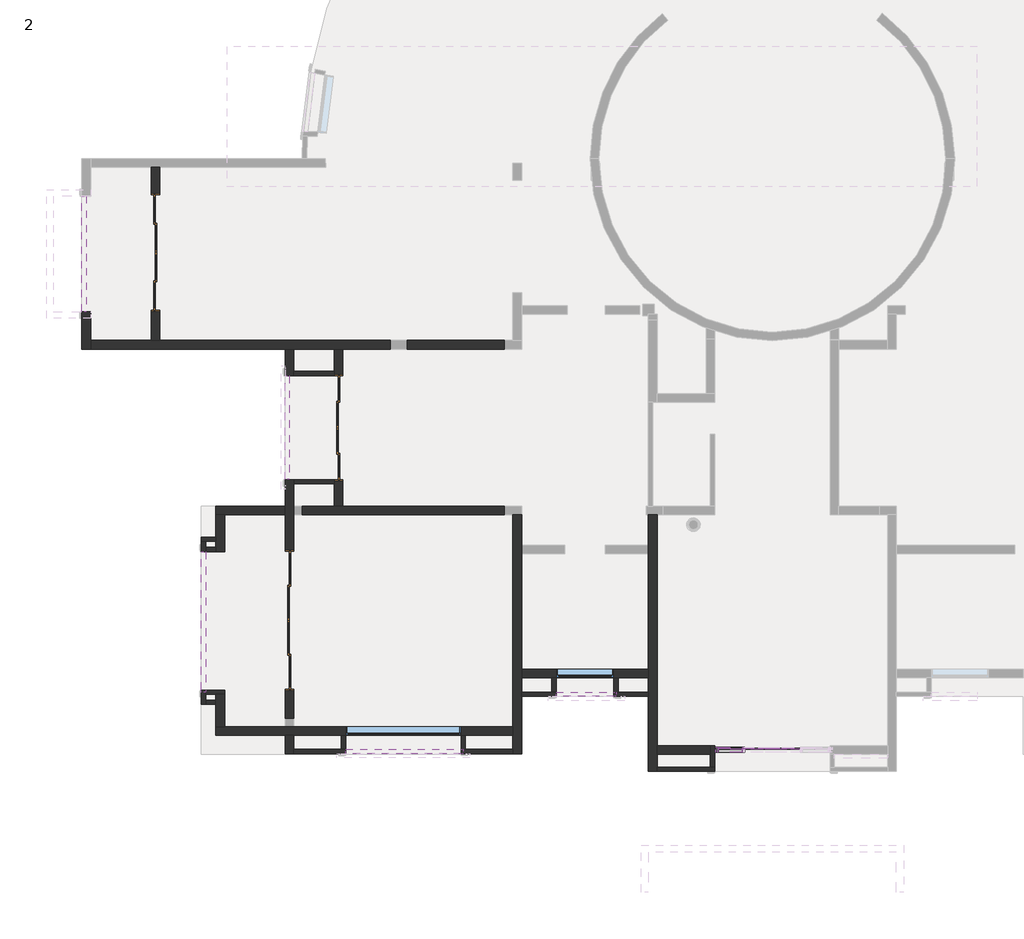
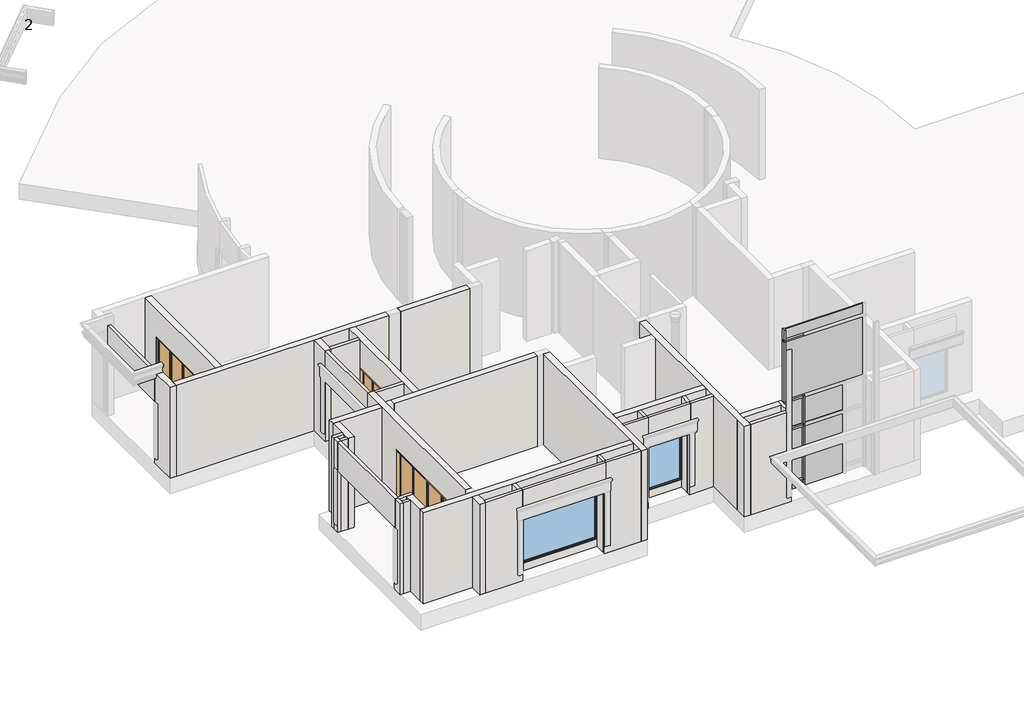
# One storey, part 1 of 10: 40 walls, 14 members, 9 plates, 3 doors, 2 windows.
"""IFC4 building model written with IfcOpenShell, lengths in millimetres."""

from ifc_helpers import new_model, si_unit, frame, origin, origin_with_axes, place, context, project, spatial, polyline, outline, extrude, faceted_brep, transform, mapped, element, save
from components import aus_sliding_door_4_panel_type_1_5477eb1e, aus_sliding_door_4_panel_type_2_6f79207a, aus_sliding_door_4_panel_type_3_7ec97240, rectangular_mullion_64mm_x127mm_rectangular_2_d7e914e6, rectangular_mullion_64mm_x127mm_rectangular_2_75d1e245, rectangular_mullion_64mm_x127mm_rectangular_2_06be906d, rectangular_mullion_64mm_x127mm_rectangular_2_866a01fa, rectangular_mullion_64mm_x127mm_rectangular_2_7f28f393, rectangular_mullion_64mm_x127mm_rectangular_2_7cbddb58, rectangular_mullion_64mm_x127mm_rectangular_2_1ad5418d, rectangular_mullion_64mm_x127mm_rectangular_2_3374d9b6, rectangular_mullion_64mm_x127mm_rectangular_2_273a15f2, rectangular_mullion_64mm_x127mm_rectangular_2_67d1cd44, rectangular_mullion_64mm_x127mm_rectangular_2_993caacf, rectangular_mullion_64mm_x127mm_rectangular_2_3c3dc66a, system_panel_glazed_24e33e6b, system_panel_glazed_a08e44d8, system_panel_glazed_6ae58218, system_panel_glazed_944de8d7, system_panel_glazed_508074fb, system_panel_glazed_55d0f924, system_panel_glazed_cddbe8b8, system_panel_glazed_61270000, system_panel_glazed_4acdfc2d, fixed_w1_e8647365, fixed_w2_d0e34ccd

model = new_model("IFC4")

# Units and contexts
model_context = context("Model", 3, world=origin())
ifc_project = project(units=[si_unit("LENGTHUNIT", "METRE", prefix="MILLI")], contexts=[model_context])

# Site, building, storey
site = spatial("IfcSite", under=ifc_project)
building = spatial("IfcBuilding", under=site)
storey = spatial("IfcBuildingStorey", under=building, Name="2", Elevation=0.0)

# Doors
placement = place(None, origin())
aus_sliding_door_4_panel_type_1_shape = aus_sliding_door_4_panel_type_1_5477eb1e(model_context)
element("IfcDoor", 1, ObjectType="AUS_Sliding Door 4 Panel : Type 1", at=placement, inside=storey, context=model_context, shape_type="MappedRepresentation", body=[
    mapped(aus_sliding_door_4_panel_type_1_shape, transform((-19856.6950906, -6658.0116955, 0.0), x_axis=(0.0, 1.0, 0.0), y_axis=(-1.0, 0.0, 0.0), z_axis=(0.0, 0.0, 1.0))),
])
aus_sliding_door_4_panel_type_2_shape = aus_sliding_door_4_panel_type_2_6f79207a(model_context)
element("IfcDoor", 2, ObjectType="AUS_Sliding Door 4 Panel : Type 2", at=placement, inside=storey, context=model_context, shape_type="MappedRepresentation", body=[
    mapped(aus_sliding_door_4_panel_type_2_shape, transform((-21152.0950906, -11748.4773323, 0.0), x_axis=(0.0, 1.0, 0.0), y_axis=(-1.0, 0.0, 0.0), z_axis=(0.0, 0.0, 1.0))),
])
aus_sliding_door_4_panel_type_3_shape = aus_sliding_door_4_panel_type_3_7ec97240(model_context)
element("IfcDoor", 3, ObjectType="AUS_Sliding Door 4 Panel : Type 3", at=placement, inside=storey, context=model_context, shape_type="MappedRepresentation", body=[
    mapped(aus_sliding_door_4_panel_type_3_shape, transform((-24695.3950906, -1857.8613299, 0.0), x_axis=(0.0, -1.0, 0.0), y_axis=(1.0, 0.0, 0.0), z_axis=(0.0, 0.0, 1.0))),
])

# Members
rectangular_mullion_64mm_x127mm_rectangular_2_shape = rectangular_mullion_64mm_x127mm_rectangular_2_d7e914e6(model_context)
element("IfcMember", 4, ObjectType="Rectangular Mullion : 64mm x127mm rectangular 2", at=placement, inside=storey, context=model_context, shape_type="MappedRepresentation", body=[
    mapped(rectangular_mullion_64mm_x127mm_rectangular_2_shape, transform((-9182.494385, -15088.1193311, 3581.4), x_axis=(0.0, 0.0, 1.0), y_axis=(0.0, -1.0, 0.0), z_axis=(1.0, 0.0, 0.0))),
])
element("IfcMember", 5, ObjectType="Rectangular Mullion : 64mm x127mm rectangular 2", at=placement, inside=storey, context=model_context, shape_type="MappedRepresentation", body=[
    mapped(rectangular_mullion_64mm_x127mm_rectangular_2_shape, transform((-9182.494385, -15088.1193311, 2438.4), x_axis=(0.0, 0.0, 1.0), y_axis=(0.0, -1.0, 0.0), z_axis=(1.0, 0.0, 0.0))),
])
element("IfcMember", 6, ObjectType="Rectangular Mullion : 64mm x127mm rectangular 2", at=placement, inside=storey, context=model_context, shape_type="MappedRepresentation", body=[
    mapped(rectangular_mullion_64mm_x127mm_rectangular_2_shape, transform((-9182.494385, -15088.1193311, 304.8), x_axis=(0.0, 0.0, 1.0), y_axis=(0.0, -1.0, 0.0), z_axis=(1.0, 0.0, 0.0))),
])
rectangular_mullion_64mm_x127mm_rectangular_2_2_shape = rectangular_mullion_64mm_x127mm_rectangular_2_75d1e245(model_context)
element("IfcMember", 7, ObjectType="Rectangular Mullion : 64mm x127mm rectangular 2", at=placement, inside=storey, context=model_context, shape_type="MappedRepresentation", body=[
    mapped(rectangular_mullion_64mm_x127mm_rectangular_2_2_shape, transform((-9150.744385, -15088.1193311, 0.0), x_axis=(1.0, 0.0, 0.0), y_axis=(0.0, -1.0, 0.0), z_axis=(0.0, 0.0, -1.0))),
])
rectangular_mullion_64mm_x127mm_rectangular_2_3_shape = rectangular_mullion_64mm_x127mm_rectangular_2_06be906d(model_context)
element("IfcMember", 8, ObjectType="Rectangular Mullion : 64mm x127mm rectangular 2", at=placement, inside=storey, context=model_context, shape_type="MappedRepresentation", body=[
    mapped(rectangular_mullion_64mm_x127mm_rectangular_2_3_shape, transform((-9150.744385, -15088.1193311, 2438.4), x_axis=(1.0, 0.0, 0.0), y_axis=(0.0, -1.0, 0.0), z_axis=(0.0, 0.0, -1.0))),
])
rectangular_mullion_64mm_x127mm_rectangular_2_4_shape = rectangular_mullion_64mm_x127mm_rectangular_2_866a01fa(model_context)
element("IfcMember", 9, ObjectType="Rectangular Mullion : 64mm x127mm rectangular 2", at=placement, inside=storey, context=model_context, shape_type="MappedRepresentation", body=[
    mapped(rectangular_mullion_64mm_x127mm_rectangular_2_4_shape, transform((-9150.744385, -15088.1193311, 2489.2), x_axis=(1.0, 0.0, 0.0), y_axis=(0.0, -1.0, 0.0), z_axis=(0.0, 0.0, -1.0))),
])
rectangular_mullion_64mm_x127mm_rectangular_2_5_shape = rectangular_mullion_64mm_x127mm_rectangular_2_7f28f393(model_context)
element("IfcMember", 10, ObjectType="Rectangular Mullion : 64mm x127mm rectangular 2", at=placement, inside=storey, context=model_context, shape_type="MappedRepresentation", body=[
    mapped(rectangular_mullion_64mm_x127mm_rectangular_2_5_shape, transform((-9150.744385, -15088.1193311, 5993.6093009), x_axis=(0.0, 0.0, 1.0), y_axis=(0.0, -1.0, 0.0), z_axis=(1.0, 0.0, 0.0))),
])
rectangular_mullion_64mm_x127mm_rectangular_2_6_shape = rectangular_mullion_64mm_x127mm_rectangular_2_7cbddb58(model_context)
element("IfcMember", 11, ObjectType="Rectangular Mullion : 64mm x127mm rectangular 2", at=placement, inside=storey, context=model_context, shape_type="MappedRepresentation", body=[
    mapped(rectangular_mullion_64mm_x127mm_rectangular_2_6_shape, transform((-9150.744385, -15088.1193311, 304.8), x_axis=(1.0, 0.0, 0.0), y_axis=(0.0, -1.0, 0.0), z_axis=(0.0, 0.0, -1.0))),
])
rectangular_mullion_64mm_x127mm_rectangular_2_7_shape = rectangular_mullion_64mm_x127mm_rectangular_2_1ad5418d(model_context)
element("IfcMember", 12, ObjectType="Rectangular Mullion : 64mm x127mm rectangular 2", at=placement, inside=storey, context=model_context, shape_type="MappedRepresentation", body=[
    mapped(rectangular_mullion_64mm_x127mm_rectangular_2_7_shape, transform((-9884.169385, -15088.1193311, 6425.4093009), x_axis=(-1.0, 0.0, 0.0), y_axis=(0.0, -1.0, 0.0), z_axis=(0.0, 0.0, 1.0))),
])
rectangular_mullion_64mm_x127mm_rectangular_2_8_shape = rectangular_mullion_64mm_x127mm_rectangular_2_3374d9b6(model_context)
element("IfcMember", 13, ObjectType="Rectangular Mullion : 64mm x127mm rectangular 2", at=placement, inside=storey, context=model_context, shape_type="MappedRepresentation", body=[
    mapped(rectangular_mullion_64mm_x127mm_rectangular_2_8_shape, transform((-9884.169385, -15088.1193311, 2438.4), x_axis=(-1.0, 0.0, 0.0), y_axis=(0.0, -1.0, 0.0), z_axis=(0.0, 0.0, 1.0))),
])
rectangular_mullion_64mm_x127mm_rectangular_2_9_shape = rectangular_mullion_64mm_x127mm_rectangular_2_273a15f2(model_context)
element("IfcMember", 14, ObjectType="Rectangular Mullion : 64mm x127mm rectangular 2", at=placement, inside=storey, context=model_context, shape_type="MappedRepresentation", body=[
    mapped(rectangular_mullion_64mm_x127mm_rectangular_2_9_shape, transform((-9884.169385, -15088.1193311, 3581.4), x_axis=(-1.0, 0.0, 0.0), y_axis=(0.0, -1.0, 0.0), z_axis=(0.0, 0.0, 1.0))),
])
rectangular_mullion_64mm_x127mm_rectangular_2_10_shape = rectangular_mullion_64mm_x127mm_rectangular_2_67d1cd44(model_context)
element("IfcMember", 15, ObjectType="Rectangular Mullion : 64mm x127mm rectangular 2", at=placement, inside=storey, context=model_context, shape_type="MappedRepresentation", body=[
    mapped(rectangular_mullion_64mm_x127mm_rectangular_2_10_shape, transform((-9884.169385, -15088.1193311, 2489.2), x_axis=(-1.0, 0.0, 0.0), y_axis=(0.0, -1.0, 0.0), z_axis=(0.0, 0.0, 1.0))),
])
rectangular_mullion_64mm_x127mm_rectangular_2_11_shape = rectangular_mullion_64mm_x127mm_rectangular_2_993caacf(model_context)
element("IfcMember", 16, ObjectType="Rectangular Mullion : 64mm x127mm rectangular 2", at=placement, inside=storey, context=model_context, shape_type="MappedRepresentation", body=[
    mapped(rectangular_mullion_64mm_x127mm_rectangular_2_11_shape, transform((-9884.169385, -15088.1193311, 5961.8593009), x_axis=(-1.0, 0.0, 0.0), y_axis=(0.0, -1.0, 0.0), z_axis=(0.0, 0.0, 1.0))),
])
rectangular_mullion_64mm_x127mm_rectangular_2_12_shape = rectangular_mullion_64mm_x127mm_rectangular_2_3c3dc66a(model_context)
element("IfcMember", 17, ObjectType="Rectangular Mullion : 64mm x127mm rectangular 2", at=placement, inside=storey, context=model_context, shape_type="MappedRepresentation", body=[
    mapped(rectangular_mullion_64mm_x127mm_rectangular_2_12_shape, transform((-9884.169385, -15088.1193311, 304.8), x_axis=(-1.0, 0.0, 0.0), y_axis=(0.0, -1.0, 0.0), z_axis=(0.0, 0.0, 1.0))),
])

# Plates
system_panel_glazed_shape = system_panel_glazed_24e33e6b(model_context)
element("IfcPlate", 18, ObjectType="System Panel : Glazed", at=placement, inside=storey, context=model_context, shape_type="MappedRepresentation", body=[
    mapped(system_panel_glazed_shape, transform((-8388.744385, -15088.1193311, 2470.15), x_axis=(1.0, 0.0, 0.0), y_axis=(0.0, 1.0, 0.0), z_axis=(0.0, 0.0, 1.0))),
])
system_panel_glazed_2_shape = system_panel_glazed_a08e44d8(model_context)
element("IfcPlate", 19, ObjectType="System Panel : Glazed", at=placement, inside=storey, context=model_context, shape_type="MappedRepresentation", body=[
    mapped(system_panel_glazed_2_shape, transform((-8388.744385, -15088.1193311, 2489.2), x_axis=(1.0, 0.0, 0.0), y_axis=(0.0, 1.0, 0.0), z_axis=(0.0, 0.0, 1.0))),
])
system_panel_glazed_3_shape = system_panel_glazed_6ae58218(model_context)
element("IfcPlate", 20, ObjectType="System Panel : Glazed", at=placement, inside=storey, context=model_context, shape_type="MappedRepresentation", body=[
    mapped(system_panel_glazed_3_shape, transform((-9501.581885, -15088.1193311, 2470.15), x_axis=(1.0, 0.0, 0.0), y_axis=(0.0, 1.0, 0.0), z_axis=(0.0, 0.0, 1.0))),
])
system_panel_glazed_4_shape = system_panel_glazed_944de8d7(model_context)
element("IfcPlate", 21, ObjectType="System Panel : Glazed", at=placement, inside=storey, context=model_context, shape_type="MappedRepresentation", body=[
    mapped(system_panel_glazed_4_shape, transform((-9501.581885, -15088.1193311, 2489.2), x_axis=(1.0, 0.0, 0.0), y_axis=(0.0, 1.0, 0.0), z_axis=(0.0, 0.0, 1.0))),
])
system_panel_glazed_5_shape = system_panel_glazed_508074fb(model_context)
element("IfcPlate", 22, ObjectType="System Panel : Glazed", at=placement, inside=storey, context=model_context, shape_type="MappedRepresentation", body=[
    mapped(system_panel_glazed_5_shape, transform((-8368.106885, -15088.1193311, 3613.15), x_axis=(1.0, 0.0, 0.0), y_axis=(0.0, 1.0, 0.0), z_axis=(0.0, 0.0, 1.0))),
])
system_panel_glazed_6_shape = system_panel_glazed_55d0f924(model_context)
element("IfcPlate", 23, ObjectType="System Panel : Glazed", at=placement, inside=storey, context=model_context, shape_type="MappedRepresentation", body=[
    mapped(system_panel_glazed_6_shape, transform((-8368.106885, -15088.1193311, 6025.3593009), x_axis=(1.0, 0.0, 0.0), y_axis=(0.0, 1.0, 0.0), z_axis=(0.0, 0.0, 1.0))),
])
system_panel_glazed_7_shape = system_panel_glazed_cddbe8b8(model_context)
element("IfcPlate", 24, ObjectType="System Panel : Glazed", at=placement, inside=storey, context=model_context, shape_type="MappedRepresentation", body=[
    mapped(system_panel_glazed_7_shape, transform((-8388.744385, -15088.1193311, 0.0), x_axis=(1.0, 0.0, 0.0), y_axis=(0.0, 1.0, 0.0), z_axis=(0.0, 0.0, 1.0))),
])
system_panel_glazed_8_shape = system_panel_glazed_61270000(model_context)
element("IfcPlate", 25, ObjectType="System Panel : Glazed", at=placement, inside=storey, context=model_context, shape_type="MappedRepresentation", body=[
    mapped(system_panel_glazed_8_shape, transform((-9501.581885, -15088.1193311, 0.0), x_axis=(1.0, 0.0, 0.0), y_axis=(0.0, 1.0, 0.0), z_axis=(0.0, 0.0, 1.0))),
])
system_panel_glazed_9_shape = system_panel_glazed_4acdfc2d(model_context)
element("IfcPlate", 26, ObjectType="System Panel : Glazed", at=placement, inside=storey, context=model_context, shape_type="MappedRepresentation", body=[
    mapped(system_panel_glazed_9_shape, transform((-9501.581885, -15088.1193311, 336.55), x_axis=(1.0, 0.0, 0.0), y_axis=(0.0, 1.0, 0.0), z_axis=(0.0, 0.0, 1.0))),
])

# Walls
element("IfcWall", 27, ObjectType="115mm BK WALL", at=placement, inside=storey, context=model_context, shape_type="Brep", body=[
    faceted_brep([(-23095.1950906, -9467.5681763, 0.0), (-23476.3608197, -9467.5681763, 0.0), (-23476.3608197, -9467.5681763, 3581.4), (-23095.1950906, -9467.5681763, 3581.4), (-23095.1950906, -9581.8681763, 0.0), (-23095.1950906, -9581.8681763, 3581.4), (-23362.0608197, -9581.8681763, 3581.4), (-23476.3608197, -9581.8681763, 3581.4), (-23476.3608197, -9581.8681763, 0.0), (-23362.0608197, -9581.8681763, 0.0)], [[[0, 1, 2, 3]], [[4, 5, 6, 7, 8, 9]], [[1, 0, 4, 9, 8]], [[3, 2, 7, 6, 5]], [[2, 1, 8, 7]], [[0, 3, 5, 4]]]),
])
element("IfcWall", 28, ObjectType="115mm BK WALL", at=placement, inside=storey, context=model_context, shape_type="Brep", body=[
    faceted_brep([(-23476.3608197, -9581.8681763, 0.0), (-23476.3608197, -9848.5681763, 0.0), (-23476.3608197, -9848.5681763, 2438.4), (-23476.3608197, -9848.5681763, 2933.7), (-23476.3608197, -9848.5681763, 3581.4), (-23476.3608197, -9581.8681763, 3581.4), (-23362.0608197, -9848.5681763, 0.0), (-23362.0608197, -9734.2681763, 0.0), (-23362.0608197, -9581.8681763, 0.0), (-23362.0608197, -9581.8681763, 3581.4), (-23362.0608197, -9734.2681763, 3581.4), (-23362.0608197, -9848.5681763, 3581.4), (-23362.0608197, -9848.5681763, 2438.4)], [[[0, 1, 2, 3, 4, 5]], [[6, 7, 8, 9, 10, 11, 12]], [[1, 0, 8, 7, 6]], [[5, 4, 11, 10, 9]], [[1, 6, 12, 11, 4, 3, 2]], [[0, 5, 9, 8]]]),
])
element("IfcWall", 29, ObjectType="115mm BK WALL", at=placement, inside=storey, context=model_context, shape_type="SweptSolid", body=[
    extrude(outline(polyline([(-23095.1950906, -9848.5681763), (-23362.0608197, -9848.5681763), (-23362.0608197, -9734.2681763), (-23095.1950906, -9734.2681763), (-23095.1950906, -9848.5681763)])), origin_with_axes(), (0.0, 0.0, 1.0), 3581.4),
])
element("IfcWall", 30, ObjectType="115mm BK WALL", at=placement, inside=storey, context=model_context, shape_type="Brep", body=[
    faceted_brep([(-22866.5950906, -13506.9693311, 0.0), (-23362.0608197, -13506.9693311, 0.0), (-23362.0608197, -13506.9693311, 2438.4), (-23362.0608197, -13506.9693311, 3581.4), (-22866.5950906, -13506.9693311, 3581.4), (-23362.0608197, -13621.2693311, 0.0), (-23095.1950906, -13621.2693311, 0.0), (-22866.5950906, -13621.2693311, 0.0), (-22866.5950906, -13621.2693311, 3581.4), (-23095.1950906, -13621.2693311, 3581.4), (-23362.0608197, -13621.2693311, 3581.4), (-23362.0608197, -13564.1193311, 3581.4)], [[[0, 1, 2, 3, 4]], [[5, 6, 7, 8, 9, 10]], [[1, 0, 7, 6, 5]], [[4, 3, 11, 10, 9, 8]], [[0, 4, 8, 7]], [[1, 5, 10, 11, 3, 2]]]),
])
element("IfcWall", 31, ObjectType="115mm BK WALL", at=placement, inside=storey, context=model_context, shape_type="Brep", body=[
    faceted_brep([(-23476.3608197, -13506.9693311, 0.0), (-23476.3608197, -13887.1681763, 0.0), (-23476.3608197, -13887.1681763, 3581.4), (-23476.3608197, -13564.1193311, 3581.4), (-23476.3608197, -13564.1193311, 2933.7), (-23476.3608197, -13564.1193311, 2438.4), (-23476.3608197, -13506.9693311, 2438.4), (-23362.0608197, -13887.1681763, 0.0), (-23362.0608197, -13772.8681763, 0.0), (-23362.0608197, -13621.2693311, 0.0), (-23362.0608197, -13506.9693311, 0.0), (-23362.0608197, -13506.9693311, 2438.4), (-23362.0608197, -13564.1193311, 2438.4), (-23362.0608197, -13564.1193311, 3581.4), (-23362.0608197, -13621.2693311, 3581.4), (-23362.0608197, -13772.8681763, 3581.4), (-23362.0608197, -13887.1681763, 3581.4)], [[[0, 1, 2, 3, 4, 5, 6]], [[7, 8, 9, 10, 11, 12, 13, 14, 15, 16]], [[1, 0, 10, 9, 8, 7]], [[3, 2, 16, 15, 14, 13]], [[2, 1, 7, 16]], [[3, 13, 12, 5, 4]], [[5, 12, 11, 6]], [[0, 6, 11, 10]]]),
])
element("IfcWall", 32, ObjectType="115mm BK WALL", at=placement, inside=storey, context=model_context, shape_type="SweptSolid", body=[
    extrude(outline(polyline([(-23095.1950906, -13887.1681763), (-23362.0608197, -13887.1681763), (-23362.0608197, -13772.8681763), (-23095.1950906, -13772.8681763), (-23095.1950906, -13887.1681763)])), origin_with_axes(), (0.0, 0.0, 1.0), 3581.4),
])
element("IfcWall", 33, ObjectType="115mm BK WALL", at=placement, inside=storey, context=model_context, shape_type="Brep", body=[
    faceted_brep([(-21037.7950906, -15186.1193311, 0.0), (-19666.344385, -15186.1193311, 0.0), (-19666.344385, -15186.1193311, 2438.4), (-19666.344385, -15186.1193311, 3581.4), (-21037.7950906, -15186.1193311, 3581.4), (-21037.7950906, -15071.8193311, 0.0), (-21037.7950906, -15071.8193311, 3581.4), (-19780.644385, -15071.8193311, 3581.4), (-19666.344385, -15071.8193311, 3581.4), (-19666.344385, -15071.8193311, 2438.4), (-19666.344385, -15071.8193311, 0.0), (-19780.644385, -15071.8193311, 0.0)], [[[0, 1, 2, 3, 4]], [[5, 6, 7, 8, 9, 10, 11]], [[1, 0, 5, 11, 10]], [[3, 2, 1, 10, 9, 8]], [[4, 3, 8, 7, 6]], [[0, 4, 6, 5]]]),
])
element("IfcWall", 34, ObjectType="115mm BK WALL", at=placement, inside=storey, context=model_context, shape_type="Brep", body=[
    faceted_brep([(-19666.344385, -15071.8193311, 0.0), (-19666.344385, -14707.1193311, 0.0), (-19666.344385, -14707.1193311, 304.8), (-19666.344385, -14707.1193311, 2438.4), (-19666.344385, -14707.1193311, 3581.4), (-19666.344385, -15071.8193311, 3581.4), (-19780.644385, -15071.8193311, 0.0), (-19780.644385, -15071.8193311, 3581.4), (-19780.644385, -14707.1193311, 3581.4), (-19780.644385, -14707.1193311, 0.0)], [[[0, 1, 2, 3, 4, 5]], [[6, 7, 8, 9]], [[1, 0, 6, 9]], [[5, 4, 8, 7]], [[4, 3, 2, 1, 9, 8]], [[0, 5, 7, 6]]]),
])
element("IfcWall", 35, ObjectType="115mm BK WALL", at=placement, inside=storey, context=model_context, shape_type="Brep", body=[
    faceted_brep([(-16618.344385, -14707.1193311, 0.0), (-16618.344385, -15071.8193311, 0.0), (-16618.344385, -15071.8193311, 2438.4), (-16618.344385, -15071.8193311, 3581.4), (-16618.344385, -14707.1193311, 3581.4), (-16618.344385, -14707.1193311, 2438.4), (-16618.344385, -14707.1193311, 304.8), (-16504.044385, -14707.1193311, 0.0), (-16504.044385, -14707.1193311, 3581.4), (-16504.044385, -15071.8193311, 3581.4), (-16504.044385, -15071.8193311, 0.0), (-16561.194385, -15071.8193311, 3581.4)], [[[0, 1, 2, 3, 4, 5, 6]], [[7, 8, 9, 10]], [[1, 0, 7, 10]], [[4, 3, 11, 9, 8]], [[0, 6, 5, 4, 8, 7]], [[1, 10, 9, 11, 3, 2]]]),
])
element("IfcWall", 36, ObjectType="115mm BK WALL", at=placement, inside=storey, context=model_context, shape_type="Brep", body=[
    faceted_brep([(-15017.9950906, -13677.6181763, 0.0), (-14103.744385, -13677.6181763, 0.0), (-14103.744385, -13677.6181763, 2438.4), (-14103.744385, -13677.6181763, 3581.4), (-15017.9950906, -13677.6181763, 3581.4), (-15017.9950906, -13563.3181763, 0.0), (-15017.9950906, -13563.3181763, 3581.4), (-14218.044385, -13563.3181763, 3581.4), (-14103.744385, -13563.3181763, 3581.4), (-14103.744385, -13563.3181763, 2438.4), (-14103.744385, -13563.3181763, 0.0), (-14218.044385, -13563.3181763, 0.0)], [[[0, 1, 2, 3, 4]], [[5, 6, 7, 8, 9, 10, 11]], [[1, 0, 5, 11, 10]], [[4, 3, 8, 7, 6]], [[1, 10, 9, 8, 3, 2]], [[0, 4, 6, 5]]]),
])
element("IfcWall", 37, ObjectType="115mm BK WALL", at=placement, inside=storey, context=model_context, shape_type="Brep", body=[
    faceted_brep([(-14103.744385, -13563.3181763, 3581.4), (-14103.744385, -13563.3181763, 0.0), (-14103.744385, -13183.1193311, 0.0), (-14103.744385, -13183.1193311, 304.8), (-14103.744385, -13183.1193311, 2438.4), (-14103.744385, -13183.1193311, 3581.4), (-14218.044385, -13563.3181763, 0.0), (-14218.044385, -13563.3181763, 3581.4), (-14218.044385, -13183.1193311, 3581.4), (-14218.044385, -13183.1193311, 0.0)], [[[0, 1, 2, 3, 4, 5]], [[6, 7, 8, 9]], [[2, 1, 6, 9]], [[0, 5, 8, 7]], [[0, 7, 6, 1]], [[5, 4, 3, 2, 9, 8]]]),
])
element("IfcWall", 38, ObjectType="115mm BK WALL", at=placement, inside=storey, context=model_context, shape_type="Brep", body=[
    faceted_brep([(-12579.744385, -13183.1193311, 0.0), (-12579.744385, -13563.3181763, 0.0), (-12579.744385, -13563.3181763, 2438.4), (-12579.744385, -13563.3181763, 3581.4), (-12579.744385, -13183.1193311, 3581.4), (-12579.744385, -13183.1193311, 2438.4), (-12579.744385, -13183.1193311, 304.8), (-12465.444385, -13183.1193311, 0.0), (-12465.444385, -13183.1193311, 3581.4), (-12465.444385, -13563.3181763, 3581.4), (-12465.444385, -13563.3181763, 0.0), (-12522.594385, -13563.3181763, 3581.4)], [[[0, 1, 2, 3, 4, 5, 6]], [[7, 8, 9, 10]], [[1, 0, 7, 10]], [[4, 3, 11, 9, 8]], [[0, 6, 5, 4, 8, 7]], [[1, 10, 9, 11, 3, 2]]]),
])
element("IfcWall", 39, ObjectType="115mm BK WALL", at=placement, inside=storey, context=model_context, shape_type="Brep", body=[
    faceted_brep([(-12579.744385, -13677.6181763, 0.0), (-11665.1950906, -13677.6181763, 0.0), (-11665.1950906, -13677.6181763, 3581.4), (-12522.594385, -13677.6181763, 3581.4), (-12522.594385, -13677.6181763, 2438.4), (-12579.744385, -13677.6181763, 2438.4), (-12579.744385, -13563.3181763, 0.0), (-12579.744385, -13563.3181763, 2438.4), (-12522.594385, -13563.3181763, 2438.4), (-12522.594385, -13563.3181763, 3581.4), (-12465.444385, -13563.3181763, 3581.4), (-11665.1950906, -13563.3181763, 3581.4), (-11665.1950906, -13563.3181763, 0.0), (-12465.444385, -13563.3181763, 0.0)], [[[0, 1, 2, 3, 4, 5]], [[6, 7, 8, 9, 10, 11, 12, 13]], [[1, 0, 6, 13, 12]], [[3, 2, 11, 10, 9]], [[4, 3, 9, 8]], [[4, 8, 7, 5]], [[0, 5, 7, 6]], [[2, 1, 12, 11]]]),
])
element("IfcWall", 40, ObjectType="115mm BK WALL", at=placement, inside=storey, context=model_context, shape_type="Brep", body=[
    faceted_brep([(-11436.5950906, -15659.6193311, 0.0), (-9912.744385, -15659.6193311, 0.0), (-9912.744385, -15659.6193311, 3581.4), (-11436.5950906, -15659.6193311, 3581.4), (-11436.5950906, -15545.3193311, 0.0), (-11436.5950906, -15545.3193311, 3581.4), (-10027.044385, -15545.3193311, 3581.4), (-9912.744385, -15545.3193311, 3581.4), (-9912.744385, -15545.3193311, 0.0), (-10027.044385, -15545.3193311, 0.0)], [[[0, 1, 2, 3]], [[4, 5, 6, 7, 8, 9]], [[1, 0, 4, 9, 8]], [[3, 2, 7, 6, 5]], [[2, 1, 8, 7]], [[0, 3, 5, 4]]]),
])
element("IfcWall", 41, ObjectType="115mm BK WALL", at=placement, inside=storey, context=model_context, shape_type="Brep", body=[
    faceted_brep([(-9912.744385, -15545.3193311, 0.0), (-9912.744385, -14973.8193311, 0.0), (-9912.744385, -14973.8193311, 3581.4), (-9912.744385, -15202.4193311, 3581.4), (-9912.744385, -15545.3193311, 3581.4), (-10027.044385, -14973.8193311, 0.0), (-10027.044385, -15202.4193311, 0.0), (-10027.044385, -15545.3193311, 0.0), (-10027.044385, -15545.3193311, 3581.4), (-10027.044385, -15202.4193311, 3581.4), (-10027.044385, -14973.8193311, 3581.4)], [[[0, 1, 2, 3, 4]], [[5, 6, 7, 8, 9, 10]], [[1, 0, 7, 6, 5]], [[4, 3, 2, 10, 9, 8]], [[2, 1, 5, 10]], [[0, 4, 8, 7]]]),
])
element("IfcWall", 42, ObjectType="115mm BK WALL", at=placement, inside=storey, context=model_context, shape_type="SweptSolid", body=[
    extrude(outline(polyline([(-19970.9950906, -5200.3681763), (-21037.7950906, -5200.3681763), (-21037.7950906, -5086.0681763), (-19970.9950906, -5086.0681763), (-19970.9950906, -5200.3681763)])), origin_with_axes(), (0.0, 0.0, 1.0), 3581.4),
])
element("IfcWall", 43, ObjectType="115mm BK WALL", at=placement, inside=storey, context=model_context, shape_type="Brep", body=[
    faceted_brep([(-21037.7950906, -8058.4392123, 0.0), (-19970.9950906, -8058.4392123, 0.0), (-19970.9950906, -8058.4392123, 3581.4), (-21037.7950906, -8058.4392123, 3581.4), (-21037.7950906, -7944.1392123, 0.0), (-21037.7950906, -7944.1392123, 3581.4), (-19970.9950906, -7944.1392123, 3581.4), (-19970.9950906, -7944.1392123, 0.0), (-19970.9950906, -7983.8536943, 0.0)], [[[0, 1, 2, 3]], [[4, 5, 6, 7]], [[1, 0, 4, 7, 8]], [[3, 2, 6, 5]], [[2, 1, 8, 7, 6]], [[0, 3, 5, 4]]]),
])
element("IfcWall", 44, ObjectType="115mm BK WALL", at=placement, inside=storey, context=model_context, shape_type="Brep", body=[
    faceted_brep([(-16618.344385, -15186.1193311, 0.0), (-15246.5950906, -15186.1193311, 0.0), (-15246.5950906, -15186.1193311, 3581.4), (-16561.194385, -15186.1193311, 3581.4), (-16561.194385, -15186.1193311, 2438.4), (-16618.344385, -15186.1193311, 2438.4), (-16618.344385, -15071.8193311, 0.0), (-16618.344385, -15071.8193311, 2438.4), (-16561.194385, -15071.8193311, 2438.4), (-16561.194385, -15071.8193311, 3581.4), (-16504.044385, -15071.8193311, 3581.4), (-15246.5950906, -15071.8193311, 3581.4), (-15246.5950906, -15071.8193311, 0.0), (-16504.044385, -15071.8193311, 0.0)], [[[0, 1, 2, 3, 4, 5]], [[6, 7, 8, 9, 10, 11, 12, 13]], [[1, 0, 6, 13, 12]], [[3, 2, 11, 10, 9]], [[4, 3, 9, 8]], [[4, 8, 7, 5]], [[0, 5, 7, 6]], [[2, 1, 12, 11]]]),
])
element("IfcWall", 45, ObjectType="115mm BK WALL", at=placement, inside=storey, context=model_context, shape_type="Brep", body=[
    faceted_brep([(-19666.344385, -15186.1193311, 2438.4), (-16618.344385, -15186.1193311, 2438.4), (-16561.194385, -15186.1193311, 2438.4), (-16561.194385, -15186.1193311, 3581.4), (-19666.344385, -15186.1193311, 3581.4), (-19666.344385, -15071.8193311, 2438.4), (-19666.344385, -15071.8193311, 3581.4), (-16618.344385, -15071.8193311, 3581.4), (-16561.194385, -15071.8193311, 3581.4), (-16561.194385, -15071.8193311, 2438.4), (-16618.344385, -15071.8193311, 2438.4)], [[[0, 1, 2, 3, 4]], [[5, 6, 7, 8, 9, 10]], [[2, 1, 0, 5, 10, 9]], [[3, 2, 9, 8]], [[4, 3, 8, 7, 6]], [[0, 4, 6, 5]]]),
])
element("IfcWall", 46, ObjectType="115mm BK WALL", at=placement, inside=storey, context=model_context, shape_type="Brep", body=[
    faceted_brep([(-14103.744385, -13677.6181763, 2438.4), (-12579.744385, -13677.6181763, 2438.4), (-12522.594385, -13677.6181763, 2438.4), (-12522.594385, -13677.6181763, 3581.4), (-14103.744385, -13677.6181763, 3581.4), (-14103.744385, -13563.3181763, 2438.4), (-14103.744385, -13563.3181763, 3581.4), (-12579.744385, -13563.3181763, 3581.4), (-12522.594385, -13563.3181763, 3581.4), (-12522.594385, -13563.3181763, 2438.4), (-12579.744385, -13563.3181763, 2438.4)], [[[0, 1, 2, 3, 4]], [[5, 6, 7, 8, 9, 10]], [[2, 1, 0, 5, 10, 9]], [[3, 2, 9, 8]], [[4, 3, 8, 7, 6]], [[0, 4, 6, 5]]]),
])
element("IfcWall", 47, ObjectType="115mm BK WALL", at=placement, inside=storey, context=model_context, shape_type="SweptSolid", body=[
    extrude(outline(polyline([(-21266.3950906, -7943.5681763), (-21266.3950906, -5200.3681763), (-21152.0950906, -5200.3681763), (-21152.0950906, -7943.5681763), (-21266.3950906, -7943.5681763)])), frame((0.0, 0.0, 2438.4), z_axis=(0.0, 0.0, 1.0), x_axis=(1.0, 0.0, 0.0)), (0.0, 0.0, 1.0), 1143.0),
])
element("IfcWall", 48, ObjectType="115mm BK WALL", at=placement, inside=storey, context=model_context, shape_type="Brep", body=[
    faceted_brep([(-23476.3608197, -9848.5681763, 2438.4), (-23476.3608197, -13506.9693311, 2438.4), (-23476.3608197, -13564.1193311, 2438.4), (-23476.3608197, -13564.1193311, 3581.4), (-23476.3608197, -9848.5681763, 3581.4), (-23362.0608197, -9848.5681763, 2438.4), (-23362.0608197, -9848.5681763, 3581.4), (-23362.0608197, -13506.9693311, 3581.4), (-23362.0608197, -13564.1193311, 3581.4), (-23362.0608197, -13564.1193311, 2438.4), (-23362.0608197, -13506.9693311, 2438.4)], [[[0, 1, 2, 3, 4]], [[5, 6, 7, 8, 9, 10]], [[2, 1, 0, 5, 10, 9]], [[3, 2, 9, 8]], [[4, 3, 8, 7, 6]], [[0, 4, 6, 5]]]),
])
element("IfcWall", 49, ObjectType="115mm BK WALL", at=placement, inside=storey, context=model_context, shape_type="SweptSolid", body=[
    extrude(outline(polyline([(-26637.5780453, -3504.9181763), (-26637.5780453, -456.9181763), (-26523.2780453, -456.9181763), (-26523.2780453, -3504.9181763), (-26637.5780453, -3504.9181763)])), frame((0.0, 0.0, 2438.4), z_axis=(0.0, 0.0, 1.0), x_axis=(1.0, 0.0, 0.0)), (0.0, 0.0, 1.0), 1143.0),
])
element("IfcWall", 50, ObjectType="230mm BK WALL", at=placement, inside=storey, context=model_context, shape_type="Brep", body=[
    faceted_brep([(-23095.1950906, -14707.1193311, 0.0), (-21266.3950906, -14707.1193311, 0.0), (-21037.7950906, -14707.1193311, 0.0), (-19780.644385, -14707.1193311, 0.0), (-19666.344385, -14707.1193311, 0.0), (-16618.344385, -14707.1193311, 0.0), (-16504.044385, -14707.1193311, 0.0), (-15246.5950906, -14707.1193311, 0.0), (-15246.5950906, -14707.1193311, 3581.4), (-16504.044385, -14707.1193311, 3581.4), (-16618.344385, -14707.1193311, 3581.4), (-19666.344385, -14707.1193311, 3581.4), (-19780.644385, -14707.1193311, 3581.4), (-21037.7950906, -14707.1193311, 3581.4), (-21266.3950906, -14707.1193311, 3581.4), (-23095.1950906, -14707.1193311, 3581.4), (-19666.344385, -14707.1193311, 2438.4), (-16618.344385, -14707.1193311, 2438.4), (-16618.344385, -14707.1193311, 304.8), (-19666.344385, -14707.1193311, 304.8), (-23095.1950906, -14478.5193311, 0.0), (-23095.1950906, -14478.5193311, 3581.4), (-22866.5950906, -14478.5193311, 3581.4), (-15246.5950906, -14478.5193311, 3581.4), (-15246.5950906, -14478.5193311, 0.0), (-22866.5950906, -14478.5193311, 0.0), (-19666.344385, -14478.5193311, 2438.4), (-19666.344385, -14478.5193311, 304.8), (-16618.344385, -14478.5193311, 304.8), (-16618.344385, -14478.5193311, 2438.4)], [[[0, 1, 2, 3, 4, 5, 6, 7, 8, 9, 10, 11, 12, 13, 14, 15], [16, 17, 18, 19]], [[20, 21, 22, 23, 24, 25], [26, 27, 28, 29]], [[7, 6, 5, 4, 3, 2, 1, 0, 20, 25, 24]], [[15, 14, 13, 12, 11, 10, 9, 8, 23, 22, 21]], [[0, 15, 21, 20]], [[8, 7, 24, 23]], [[27, 26, 16, 19]], [[28, 27, 19, 18]], [[29, 28, 18, 17]], [[26, 29, 17, 16]]]),
])
element("IfcWall", 51, ObjectType="230mm BK WALL", at=placement, inside=storey, context=model_context, shape_type="SweptSolid", body=[
    extrude(outline(polyline([(-10027.044385, -15202.4193311), (-11436.5950906, -15202.4193311), (-11436.5950906, -14973.8193311), (-10027.044385, -14973.8193311), (-10027.044385, -15202.4193311)])), origin_with_axes(), (0.0, 0.0, 1.0), 3581.4),
])
element("IfcWall", 52, ObjectType="230mm BK WALL", at=placement, inside=storey, context=model_context, shape_type="Brep", body=[
    faceted_brep([(-26408.9780453, -4496.3193311, 0.0), (-21266.3950906, -4496.3193311, 0.0), (-21037.7950906, -4496.3193311, 0.0), (-19970.9950906, -4496.3193311, 0.0), (-19742.3950906, -4496.3193311, 0.0), (-18494.1950906, -4496.3193311, 0.0), (-18494.1950906, -4496.3193311, 3581.4), (-19742.3950906, -4496.3193311, 3581.4), (-19970.9950906, -4496.3193311, 3581.4), (-21037.7950906, -4496.3193311, 3581.4), (-21266.3950906, -4496.3193311, 3581.4), (-26408.9780453, -4496.3193311, 3581.4), (-26408.9780453, -4267.7193311, 0.0), (-26408.9780453, -4267.7193311, 3581.4), (-24809.6950906, -4267.7193311, 3581.4), (-24581.0950906, -4267.7193311, 3581.4), (-18494.1950906, -4267.7193311, 3581.4), (-18494.1950906, -4267.7193311, 0.0), (-24581.0950906, -4267.7193311, 0.0), (-24809.6950906, -4267.7193311, 0.0)], [[[0, 1, 2, 3, 4, 5, 6, 7, 8, 9, 10, 11]], [[12, 13, 14, 15, 16, 17, 18, 19]], [[5, 4, 3, 2, 1, 0, 12, 19, 18, 17]], [[6, 5, 17, 16]], [[11, 10, 9, 8, 7, 6, 16, 15, 14, 13]], [[0, 11, 13, 12]]]),
])
element("IfcWall", 53, ObjectType="230mm BK WALL", at=placement, inside=storey, context=model_context, shape_type="SweptSolid", body=[
    extrude(outline(polyline([(-15471.5950906, -4496.3193311), (-18044.1950906, -4496.3193311), (-18044.1950906, -4267.7193311), (-15471.5950906, -4267.7193311), (-15471.5950906, -4496.3193311)])), origin_with_axes(), (0.0, 0.0, 1.0), 3581.4),
])
element("IfcWall", 54, ObjectType="230mm BK WALL", at=placement, inside=storey, context=model_context, shape_type="SweptSolid", body=[
    extrude(outline(polyline([(304.2806689, 0.0), (-379.6193311, 0.0), (-379.6193311, 2478.4), (-3507.6193311, 2478.4), (-3507.6193311, 0.0), (-4267.7193311, 0.0), (-4267.7193311, 3581.4), (304.2806689, 3581.4), (304.2806689, 0.0)])), frame((-24809.6950906, 0.0, 0.0), z_axis=(1.0, 0.0, 0.0), x_axis=(0.0, 1.0, 0.0)), (0.0, 0.0, 1.0), 228.6),
])
element("IfcWall", 55, ObjectType="230mm BK WALL", at=placement, inside=storey, context=model_context, shape_type="Brep", body=[
    faceted_brep([(-21266.3950906, -4496.3193311, 0.0), (-21266.3950906, -5200.3681763, 0.0), (-21266.3950906, -5200.3681763, 3581.4), (-21266.3950906, -4496.3193311, 3581.4), (-21037.7950906, -4496.3193311, 0.0), (-21037.7950906, -4496.3193311, 3581.4), (-21037.7950906, -5086.0681763, 3581.4), (-21037.7950906, -5200.3681763, 3581.4), (-21037.7950906, -5200.3681763, 0.0), (-21037.7950906, -5086.0681763, 0.0), (-21152.0950906, -5200.3681763, 3581.4)], [[[0, 1, 2, 3]], [[4, 5, 6, 7, 8, 9]], [[1, 0, 4, 9, 8]], [[3, 2, 10, 7, 6, 5]], [[1, 8, 7, 10, 2]], [[0, 3, 5, 4]]]),
])
element("IfcWall", 56, ObjectType="230mm BK WALL", at=placement, inside=storey, context=model_context, shape_type="Brep", body=[
    faceted_brep([(-19970.9950906, -7983.8536943, 2478.4), (-19970.9950906, -7983.8536943, 0.0), (-19970.9950906, -8058.4392123, 0.0), (-19970.9950906, -8649.2193311, 0.0), (-19970.9950906, -8649.2193311, 3581.4), (-19970.9950906, -8058.4392123, 3581.4), (-19970.9950906, -7944.1392123, 3581.4), (-19970.9950906, -5200.3681763, 3581.4), (-19970.9950906, -5086.0681763, 3581.4), (-19970.9950906, -4496.3193311, 3581.4), (-19970.9950906, -4496.3193311, 0.0), (-19970.9950906, -5086.0681763, 0.0), (-19970.9950906, -5160.6536943, 0.0), (-19970.9950906, -5160.6536943, 2478.4), (-19742.3950906, -8649.2193311, 0.0), (-19742.3950906, -7983.8536943, 0.0), (-19742.3950906, -7983.8536943, 2478.4), (-19742.3950906, -5160.6536943, 2478.4), (-19742.3950906, -5160.6536943, 0.0), (-19742.3950906, -4496.3193311, 0.0), (-19742.3950906, -4496.3193311, 3581.4), (-19742.3950906, -8649.2193311, 3581.4)], [[[0, 1, 2, 3, 4, 5, 6, 7, 8, 9, 10, 11, 12, 13]], [[14, 15, 16, 17, 18, 19, 20, 21]], [[3, 2, 1, 15, 14]], [[12, 11, 10, 19, 18]], [[9, 8, 7, 6, 5, 4, 21, 20]], [[10, 9, 20, 19]], [[4, 3, 14, 21]], [[16, 15, 1, 0]], [[17, 16, 0, 13]], [[18, 17, 13, 12]]]),
])
element("IfcWall", 57, ObjectType="230mm BK WALL", at=placement, inside=storey, context=model_context, shape_type="Brep", body=[
    faceted_brep([(-20812.7950906, -8877.8193311, 0.0), (-15471.5950906, -8877.8193311, 0.0), (-15471.5950906, -8877.8193311, 3581.4), (-20812.7950906, -8877.8193311, 3581.4), (-20812.7950906, -8649.2193311, 0.0), (-20812.7950906, -8649.2193311, 3581.4), (-19970.9950906, -8649.2193311, 3581.4), (-19742.3950906, -8649.2193311, 3581.4), (-15471.5950906, -8649.2193311, 3581.4), (-15471.5950906, -8649.2193311, 0.0), (-19742.3950906, -8649.2193311, 0.0), (-19970.9950906, -8649.2193311, 0.0)], [[[0, 1, 2, 3]], [[4, 5, 6, 7, 8, 9, 10, 11]], [[1, 0, 4, 11, 10, 9]], [[2, 1, 9, 8]], [[3, 2, 8, 7, 6, 5]], [[0, 3, 5, 4]]]),
])
element("IfcWall", 58, ObjectType="230mm BK WALL", at=placement, inside=storey, context=model_context, shape_type="Brep", body=[
    faceted_brep([(-21266.3950906, -8649.2193311, 0.0), (-23095.1950906, -8649.2193311, 0.0), (-23095.1950906, -8649.2193311, 3581.4), (-21266.3950906, -8649.2193311, 3581.4), (-21266.3950906, -8877.8193311, 0.0), (-21266.3950906, -8877.8193311, 3581.4), (-22866.5950906, -8877.8193311, 3581.4), (-23095.1950906, -8877.8193311, 3581.4), (-23095.1950906, -8877.8193311, 0.0), (-22866.5950906, -8877.8193311, 0.0)], [[[0, 1, 2, 3]], [[4, 5, 6, 7, 8, 9]], [[1, 0, 4, 9, 8]], [[3, 2, 7, 6, 5]], [[2, 1, 8, 7]], [[0, 3, 5, 4]]]),
])
element("IfcWall", 59, ObjectType="230mm BK WALL", at=placement, inside=storey, context=model_context, shape_type="Brep", body=[
    faceted_brep([(-23095.1950906, -8877.8193311, 0.0), (-23095.1950906, -9467.5681763, 0.0), (-23095.1950906, -9581.8681763, 0.0), (-23095.1950906, -9734.2681763, 0.0), (-23095.1950906, -9848.5681763, 0.0), (-23095.1950906, -9855.7193311, 0.0), (-23095.1950906, -9855.7193311, 3581.4), (-23095.1950906, -9848.5681763, 3581.4), (-23095.1950906, -9734.2681763, 3581.4), (-23095.1950906, -9581.8681763, 3581.4), (-23095.1950906, -9467.5681763, 3581.4), (-23095.1950906, -8877.8193311, 3581.4), (-22866.5950906, -8877.8193311, 0.0), (-22866.5950906, -8877.8193311, 3581.4), (-22866.5950906, -9855.7193311, 3581.4), (-22866.5950906, -9855.7193311, 0.0)], [[[0, 1, 2, 3, 4, 5, 6, 7, 8, 9, 10, 11]], [[12, 13, 14, 15]], [[5, 4, 3, 2, 1, 0, 12, 15]], [[6, 5, 15, 14]], [[11, 10, 9, 8, 7, 6, 14, 13]], [[0, 11, 13, 12]]]),
])
element("IfcWall", 60, ObjectType="230mm BK WALL", at=placement, inside=storey, context=model_context, shape_type="Brep", body=[
    faceted_brep([(-22866.5950906, -14478.5193311, 0.0), (-22866.5950906, -13621.2693311, 0.0), (-22866.5950906, -13621.2693311, 3581.4), (-22866.5950906, -14478.5193311, 3581.4), (-23095.1950906, -14478.5193311, 0.0), (-23095.1950906, -14478.5193311, 3581.4), (-23095.1950906, -13887.1681763, 3581.4), (-23095.1950906, -13772.8681763, 3581.4), (-23095.1950906, -13621.2693311, 3581.4), (-23095.1950906, -13621.2693311, 0.0), (-23095.1950906, -13772.8681763, 0.0), (-23095.1950906, -13887.1681763, 0.0)], [[[0, 1, 2, 3]], [[4, 5, 6, 7, 8, 9, 10, 11]], [[1, 0, 4, 11, 10, 9]], [[3, 2, 8, 7, 6, 5]], [[0, 3, 5, 4]], [[2, 1, 9, 8]]]),
])
element("IfcWall", 61, ObjectType="230mm BK WALL", at=placement, inside=storey, context=model_context, shape_type="Brep", body=[
    faceted_brep([(-21266.3950906, -14707.1193311, 0.0), (-21266.3950906, -15186.1193311, 0.0), (-21266.3950906, -15186.1193311, 3581.4), (-21266.3950906, -14707.1193311, 3581.4), (-21037.7950906, -14707.1193311, 0.0), (-21037.7950906, -14707.1193311, 3581.4), (-21037.7950906, -15071.8193311, 3581.4), (-21037.7950906, -15186.1193311, 3581.4), (-21037.7950906, -15186.1193311, 0.0), (-21037.7950906, -15071.8193311, 0.0)], [[[0, 1, 2, 3]], [[4, 5, 6, 7, 8, 9]], [[1, 0, 4, 9, 8]], [[3, 2, 7, 6, 5]], [[2, 1, 8, 7]], [[0, 3, 5, 4]]]),
])
element("IfcWall", 62, ObjectType="230mm BK WALL", at=placement, inside=storey, context=model_context, shape_type="Brep", body=[
    faceted_brep([(-15246.5950906, -8877.8193311, 0.0), (-15246.5950906, -14478.5193311, 0.0), (-15246.5950906, -14707.1193311, 0.0), (-15246.5950906, -15071.8193311, 0.0), (-15246.5950906, -15186.1193311, 0.0), (-15246.5950906, -15186.1193311, 3581.4), (-15246.5950906, -15071.8193311, 3581.4), (-15246.5950906, -14707.1193311, 3581.4), (-15246.5950906, -14478.5193311, 3581.4), (-15246.5950906, -8877.8193311, 3581.4), (-15017.9950906, -8877.8193311, 0.0), (-15017.9950906, -8877.8193311, 3581.4), (-15017.9950906, -9677.9193311, 3581.4), (-15017.9950906, -9906.5193311, 3581.4), (-15017.9950906, -12954.5193311, 3581.4), (-15017.9950906, -13183.1193311, 3581.4), (-15017.9950906, -13563.3181763, 3581.4), (-15017.9950906, -13677.6181763, 3581.4), (-15017.9950906, -15186.1193311, 3581.4), (-15017.9950906, -15186.1193311, 0.0), (-15017.9950906, -13677.6181763, 0.0), (-15017.9950906, -13563.3181763, 0.0), (-15017.9950906, -13183.1193311, 0.0), (-15017.9950906, -12954.5193311, 0.0), (-15017.9950906, -9906.5193311, 0.0), (-15017.9950906, -9677.9193311, 0.0)], [[[0, 1, 2, 3, 4, 5, 6, 7, 8, 9]], [[10, 11, 12, 13, 14, 15, 16, 17, 18, 19, 20, 21, 22, 23, 24, 25]], [[4, 3, 2, 1, 0, 10, 25, 24, 23, 22, 21, 20, 19]], [[9, 8, 7, 6, 5, 18, 17, 16, 15, 14, 13, 12, 11]], [[0, 9, 11, 10]], [[5, 4, 19, 18]]]),
])
element("IfcWall", 63, ObjectType="230mm BK WALL", at=placement, inside=storey, context=model_context, shape_type="Brep", body=[
    faceted_brep([(-15017.9950906, -13183.1193311, 0.0), (-14218.044385, -13183.1193311, 0.0), (-14103.744385, -13183.1193311, 0.0), (-12579.744385, -13183.1193311, 0.0), (-12465.444385, -13183.1193311, 0.0), (-11665.1950906, -13183.1193311, 0.0), (-11665.1950906, -13183.1193311, 3581.4), (-12465.444385, -13183.1193311, 3581.4), (-12579.744385, -13183.1193311, 3581.4), (-14103.744385, -13183.1193311, 3581.4), (-14218.044385, -13183.1193311, 3581.4), (-15017.9950906, -13183.1193311, 3581.4), (-14103.744385, -13183.1193311, 2438.4), (-12579.744385, -13183.1193311, 2438.4), (-12579.744385, -13183.1193311, 304.8), (-14103.744385, -13183.1193311, 304.8), (-15017.9950906, -12954.5193311, 0.0), (-15017.9950906, -12954.5193311, 3581.4), (-11665.1950906, -12954.5193311, 3581.4), (-11665.1950906, -12954.5193311, 0.0), (-14103.744385, -12954.5193311, 2438.4), (-14103.744385, -12954.5193311, 304.8), (-12579.744385, -12954.5193311, 304.8), (-12579.744385, -12954.5193311, 2438.4)], [[[0, 1, 2, 3, 4, 5, 6, 7, 8, 9, 10, 11], [12, 13, 14, 15]], [[16, 17, 18, 19], [20, 21, 22, 23]], [[5, 4, 3, 2, 1, 0, 16, 19]], [[11, 10, 9, 8, 7, 6, 18, 17]], [[0, 11, 17, 16]], [[6, 5, 19, 18]], [[21, 20, 12, 15]], [[22, 21, 15, 14]], [[23, 22, 14, 13]], [[20, 23, 13, 12]]]),
])
element("IfcWall", 64, ObjectType="230mm BK WALL", at=placement, inside=storey, context=model_context, shape_type="Brep", body=[
    faceted_brep([(-11665.1950906, -8877.8193311, 0.0), (-11665.1950906, -9677.9193311, 0.0), (-11665.1950906, -9906.5193311, 0.0), (-11665.1950906, -12954.5193311, 0.0), (-11665.1950906, -13183.1193311, 0.0), (-11665.1950906, -13563.3181763, 0.0), (-11665.1950906, -13677.6181763, 0.0), (-11665.1950906, -15659.6193311, 0.0), (-11665.1950906, -15659.6193311, 3581.4), (-11665.1950906, -13677.6181763, 3581.4), (-11665.1950906, -13563.3181763, 3581.4), (-11665.1950906, -13183.1193311, 3581.4), (-11665.1950906, -12954.5193311, 3581.4), (-11665.1950906, -9906.5193311, 3581.4), (-11665.1950906, -9677.9193311, 3581.4), (-11665.1950906, -8877.8193311, 3581.4), (-11436.5950906, -8877.8193311, 0.0), (-11436.5950906, -8877.8193311, 3581.4), (-11436.5950906, -14973.8193311, 3581.4), (-11436.5950906, -15202.4193311, 3581.4), (-11436.5950906, -15545.3193311, 3581.4), (-11436.5950906, -15659.6193311, 3581.4), (-11436.5950906, -15659.6193311, 0.0), (-11436.5950906, -15545.3193311, 0.0), (-11436.5950906, -15202.4193311, 0.0), (-11436.5950906, -14973.8193311, 0.0)], [[[0, 1, 2, 3, 4, 5, 6, 7, 8, 9, 10, 11, 12, 13, 14, 15]], [[16, 17, 18, 19, 20, 21, 22, 23, 24, 25]], [[7, 6, 5, 4, 3, 2, 1, 0, 16, 25, 24, 23, 22]], [[15, 14, 13, 12, 11, 10, 9, 8, 21, 20, 19, 18, 17]], [[0, 15, 17, 16]], [[8, 7, 22, 21]]]),
])
element("IfcWall", 65, ObjectType="230mm BK WALL", at=placement, inside=storey, context=model_context, shape_type="Brep", body=[
    faceted_brep([(-21266.3950906, -13531.5193311, 2478.4), (-21266.3950906, -13531.5193311, 0.0), (-21266.3950906, -14253.5193311, 0.0), (-21266.3950906, -14253.5193311, 3581.4), (-21266.3950906, -8877.8193311, 3581.4), (-21266.3950906, -8649.2193311, 3581.4), (-21266.3950906, -7944.1392123, 3581.4), (-21266.3950906, -7944.1392123, 0.0), (-21266.3950906, -8649.2193311, 0.0), (-21266.3950906, -8877.8193311, 0.0), (-21266.3950906, -9793.9193311, 0.0), (-21266.3950906, -9793.9193311, 2478.4), (-21037.7950906, -14253.5193311, 0.0), (-21037.7950906, -13531.5193311, 0.0), (-21037.7950906, -13531.5193311, 2478.4), (-21037.7950906, -9793.9193311, 2478.4), (-21037.7950906, -9793.9193311, 0.0), (-21037.7950906, -8058.4392123, 0.0), (-21037.7950906, -7944.1392123, 0.0), (-21037.7950906, -7944.1392123, 3581.4), (-21037.7950906, -8058.4392123, 3581.4), (-21037.7950906, -14253.5193311, 3581.4)], [[[0, 1, 2, 3, 4, 5, 6, 7, 8, 9, 10, 11]], [[12, 13, 14, 15, 16, 17, 18, 19, 20, 21]], [[2, 1, 13, 12]], [[10, 9, 8, 7, 18, 17, 16]], [[3, 2, 12, 21]], [[6, 5, 4, 3, 21, 20, 19]], [[7, 6, 19, 18]], [[14, 13, 1, 0]], [[15, 14, 0, 11]], [[16, 15, 11, 10]]]),
])
element("IfcWall", 66, ObjectType="230mm BK WALL", at=placement, inside=storey, context=model_context, shape_type="Brep", body=[
    faceted_brep([(-26637.5780453, -3504.9181763, 0.0), (-26637.5780453, -4496.3193311, 0.0), (-26637.5780453, -4496.3193311, 3581.4), (-26637.5780453, -3504.9181763, 3581.4), (-26637.5780453, -3504.9181763, 2933.7), (-26637.5780453, -3504.9181763, 2438.4), (-26408.9780453, -4496.3193311, 0.0), (-26408.9780453, -4267.7193311, 0.0), (-26408.9780453, -3504.9181763, 0.0), (-26408.9780453, -3504.9181763, 3581.4), (-26408.9780453, -4267.7193311, 3581.4), (-26408.9780453, -4496.3193311, 3581.4), (-26523.2780453, -3504.9181763, 3581.4)], [[[0, 1, 2, 3, 4, 5]], [[6, 7, 8, 9, 10, 11]], [[1, 0, 8, 7, 6]], [[3, 2, 11, 10, 9, 12]], [[9, 8, 0, 5, 4, 3, 12]], [[2, 1, 6, 11]]]),
])

# Windows
fixed_w1_shape = fixed_w1_e8647365(model_context)
element("IfcWindow", 67, ObjectType="Fixed : W1", at=placement, inside=storey, context=model_context, shape_type="MappedRepresentation", body=[
    mapped(fixed_w1_shape, transform((-18180.444385, -14592.8193311, -609.6), x_axis=(-1.0, 0.0, 0.0), y_axis=(0.0, -1.0, 0.0), z_axis=(0.0, 0.0, 1.0))),
])
fixed_w2_shape = fixed_w2_d0e34ccd(model_context)
element("IfcWindow", 68, ObjectType="Fixed : W2", at=placement, inside=storey, context=model_context, shape_type="MappedRepresentation", body=[
    mapped(fixed_w2_shape, transform((-13379.844385, -13068.8193311, -609.6), x_axis=(-1.0, 0.0, 0.0), y_axis=(0.0, -1.0, 0.0), z_axis=(0.0, 0.0, 1.0))),
])

save(model, "model.ifc")
